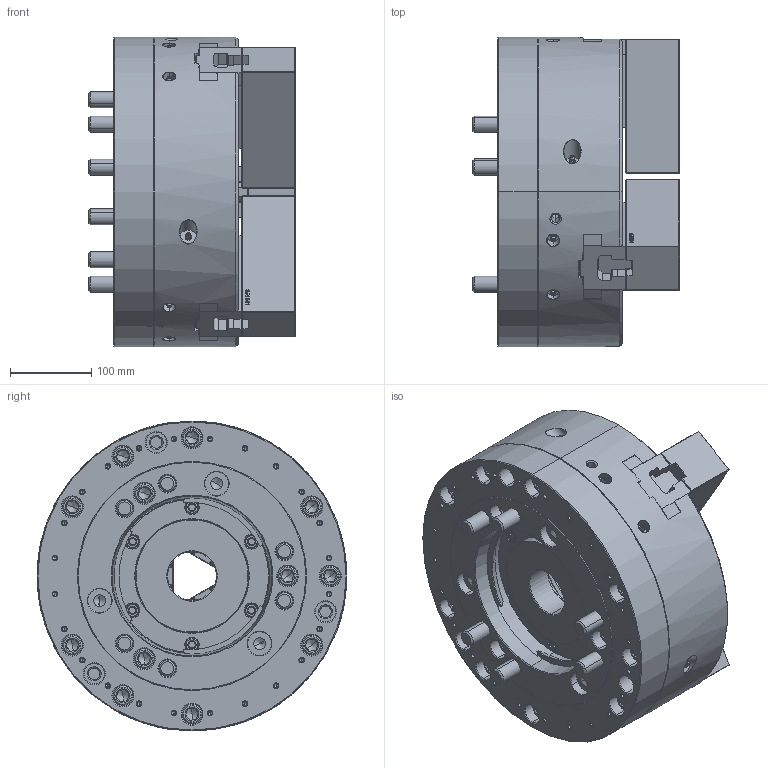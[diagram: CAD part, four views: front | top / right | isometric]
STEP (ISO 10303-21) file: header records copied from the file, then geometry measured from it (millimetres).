
FILE_DESCRIPTION (( 'STEP AP214' ), '1' );
FILE_NAME ('DT1_HOH-15K_OUTSIDE_VIEW_HCL.STEP', '2025-12-07T23:22:36', ( '' ), ( '' ), 'SwSTEP 2.0', 'SolidWorks 2022', '' );
FILE_SCHEMA (( 'AUTOMOTIVE_DESIGN' ));
Length unit declared in the file: millimetre
Products named in the file (9): DT1_HOH-15K_M20x55^DT1_HOH-15K; DT1_HOH-15K_COVER^DT1_HOH-15K; DT1_HOH-15K_OUTSIDE_VIEW_HCL; DT1_HOH-15K_M20x160^DT1_HOH-15K; DT1_HOH-15K_SOFTJAW^DT1_HOH-15K; DT1_HOH-15K_TNUT^DT1_HOH-15K; DT1_HOH-15K_DRAWNUT^DT1_HOH-15K; DT1_HOH-15K_M6x20^DT1_HOH-15K; DT1_HOH-15K_BASE^DT1_HOH-15K
Assembly tree (27 placements, depth 2):
  DT1_HOH-15K_OUTSIDE_VIEW_HCL
    DT1_HOH-15K_SOFTJAW^DT1_HOH-15K  x3
    DT1_HOH-15K_TNUT^DT1_HOH-15K  x3
    DT1_HOH-15K_DRAWNUT^DT1_HOH-15K
    DT1_HOH-15K_COVER^DT1_HOH-15K
    DT1_HOH-15K_BASE^DT1_HOH-15K
    DT1_HOH-15K_M6x20^DT1_HOH-15K  x6
    DT1_HOH-15K_M20x55^DT1_HOH-15K  x6
    DT1_HOH-15K_M20x160^DT1_HOH-15K  x6
Bounding box: 254 x 381 x 381 mm (x, y, z)
Volume: 16931959.8 mm3; surface area: 1234141.1 mm2
Topology: 27 solids, 27 shells, 8050 faces, 22792 edges, 14913 vertices
Faces by surface type: plane 4659, cylinder 2275, cone 700, bspline 317, torus 81, sphere 18
Entity records: 190524 total; most frequent: CARTESIAN_POINT 64192, ORIENTED_EDGE 28608, DIRECTION 22869, EDGE_CURVE 14304, LINE 9855, VECTOR 9855, VERTEX_POINT 9364, AXIS2_PLACEMENT_3D 6507
